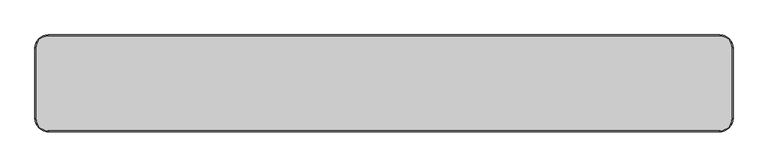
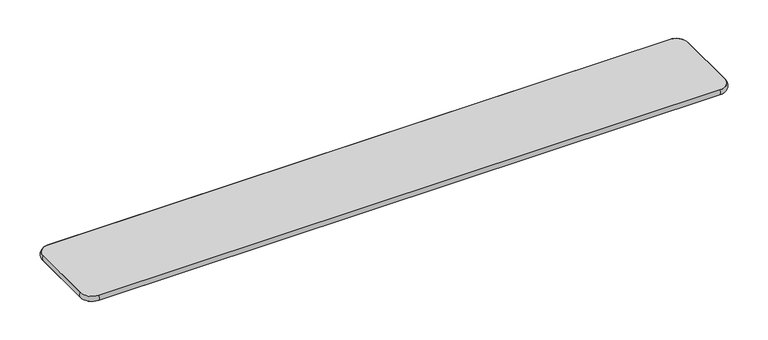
"""IFC4 building model written with IfcOpenShell, lengths in millimetres: furniture geometry, Banco para refeitório : Banco para refeitório 220x30cm cód 40473.4."""

from ifc_helpers import new_model, si_unit, point, frame, frame_2d, origin, place, context, project, spatial, polyline, circle_curve, ellipse_curve, trimmed, segment, composite_curve, outline, extrude, source, transform, mapped, element, save
from ifc_brep_helpers import plane_surface, cylinder_surface, revolved_surface, advanced_brep


def furniture_68d484b3(model_context):
    return source(origin(), model_context, "Body", "SolidModel", [
        advanced_brep(
        [(1100.0, -110.0, 380.0), (1060.0, -150.0, 380.0), (1060.0, -150.0, 362.0), (1100.0, -110.0, 362.0), (1100.0, 110.0, 362.0), (1100.0, 110.0, 380.0), (1060.0, 150.0, 380.0), (1060.0, 150.0, 362.0), (-1060.0, 150.0, 362.0), (-1060.0, 150.0, 380.0), (-1100.0, 110.0, 380.0), (-1100.0, 110.0, 362.0), (-1100.0, -110.0, 362.0), (-1100.0, -110.0, 380.0), (-1060.0, -150.0, 380.0), (-1060.0, -150.0, 362.0)],
        [
            (0, 1, circle_curve(frame((1060.0, -110.0, 380.0), z_axis=(0.0, 0.0, -1.0), x_axis=(0.0, -1.0, 0.0)), 40.0)),
            (1, 2, circle_curve(frame((1060.0, -136.6032084, 371.0), z_axis=(1.0, 0.0, 0.0), x_axis=(0.0, 1.0, 0.0)), 16.1392077)),
            (2, 3, circle_curve(frame((1060.0, -110.0, 362.0), z_axis=(0.0, 0.0, 1.0), x_axis=(0.0, -1.0, 0.0)), 40.0)),
            (3, 0, circle_curve(frame((1086.6032084, -110.0, 371.0), z_axis=(0.0, -1.0, 0.0), x_axis=(-1.0, 0.0, 0.0)), 16.1392077)),
            (2, 1),
            (0, 3),
            (3, 4),
            (4, 5, circle_curve(frame((1086.6032084, 110.0, 371.0), z_axis=(0.0, -1.0, 0.0), x_axis=(-1.0, 0.0, 0.0)), 16.1392077)),
            (5, 0),
            (5, 4),
            (6, 5, circle_curve(frame((1060.0, 110.0, 380.0), z_axis=(0.0, 0.0, -1.0), x_axis=(1.0, 0.0, 0.0)), 40.0)),
            (4, 7, circle_curve(frame((1060.0, 110.0, 362.0), z_axis=(0.0, 0.0, 1.0), x_axis=(1.0, 0.0, 0.0)), 40.0)),
            (7, 6, circle_curve(frame((1060.0, 136.6032084, 371.0), z_axis=(1.0, 0.0, 0.0), x_axis=(0.0, -1.0, 0.0)), 16.1392077)),
            (6, 7),
            (7, 8),
            (8, 9, circle_curve(frame((-1060.0, 136.6032084, 371.0), z_axis=(1.0, 0.0, 0.0), x_axis=(0.0, -1.0, 0.0)), 16.1392077)),
            (9, 6),
            (9, 8),
            (10, 9, circle_curve(frame((-1060.0, 110.0, 380.0), z_axis=(0.0, 0.0, -1.0), x_axis=(0.0, 1.0, 0.0)), 40.0)),
            (8, 11, circle_curve(frame((-1060.0, 110.0, 362.0), z_axis=(0.0, 0.0, 1.0), x_axis=(0.0, 1.0, 0.0)), 40.0)),
            (11, 10, circle_curve(frame((-1086.6032084, 110.0, 371.0), z_axis=(0.0, 1.0, 0.0), x_axis=(1.0, 0.0, 0.0)), 16.1392077)),
            (10, 11),
            (11, 12),
            (12, 13, circle_curve(frame((-1086.6032084, -110.0, 371.0), z_axis=(0.0, 1.0, 0.0), x_axis=(1.0, 0.0, 0.0)), 16.1392077)),
            (13, 10),
            (13, 12),
            (14, 13, circle_curve(frame((-1060.0, -110.0, 380.0), z_axis=(0.0, 0.0, -1.0), x_axis=(-1.0, 0.0, 0.0)), 40.0)),
            (12, 15, circle_curve(frame((-1060.0, -110.0, 362.0), z_axis=(0.0, 0.0, 1.0), x_axis=(-1.0, 0.0, 0.0)), 40.0)),
            (15, 14, circle_curve(frame((-1060.0, -136.6032084, 371.0), z_axis=(-1.0, 0.0, 0.0), x_axis=(0.0, 1.0, 0.0)), 16.1392077)),
            (14, 15),
            (15, 2),
            (1, 14),
        ],
        [
            revolved_surface(trimmed(ellipse_curve(frame((1060.0, -136.6032084, 371.0), z_axis=(-1.0, 0.0, 0.0), x_axis=(0.0, 1.0, 0.0)), 16.1392077, 16.1392077), [point((1060.0, -150.0, 362.0))], [point((1060.0, -150.0, 380.0))], True, "CARTESIAN"), (1060.0, -110.0, 380.0), (0.0, 0.0, 1.0)),
            revolved_surface(polyline([(1060.0, -150.0, 380.0), (1060.0, -150.0, 362.0)]), (1060.0, -110.0, 380.0), (0.0, 0.0, 1.0)),
            cylinder_surface(frame((1086.6032084, -110.0, 371.0), z_axis=(0.0, -1.0, 0.0), x_axis=(-1.0, 0.0, 0.0)), 16.1392077),
            plane_surface(frame((1100.0, -110.0, 380.0), z_axis=(-1.0, 0.0, 0.0), x_axis=(0.0, 1.0, 0.0))),
            revolved_surface(trimmed(ellipse_curve(frame((1086.6032084, 110.0, 371.0), z_axis=(0.0, -1.0, 0.0), x_axis=(-1.0, 0.0, 0.0)), 16.1392077, 16.1392077), [point((1100.0, 110.0, 362.0))], [point((1100.0, 110.0, 380.0))], True, "CARTESIAN"), (1060.0, 110.0, 380.0), (0.0, 0.0, 1.0)),
            revolved_surface(polyline([(1100.0, 110.0, 380.0), (1100.0, 110.0, 362.0)]), (1060.0, 110.0, 380.0), (0.0, 0.0, 1.0)),
            cylinder_surface(frame((1060.0, 136.6032084, 371.0), z_axis=(1.0, 0.0, 0.0), x_axis=(0.0, -1.0, 0.0)), 16.1392077),
            plane_surface(frame((1060.0, 150.0, 380.0), z_axis=(0.0, -1.0, 0.0), x_axis=(-1.0, 0.0, 0.0))),
            revolved_surface(trimmed(ellipse_curve(frame((-1060.0, 136.6032084, 371.0), z_axis=(1.0, 0.0, 0.0), x_axis=(0.0, -1.0, 0.0)), 16.1392077, 16.1392077), [point((-1060.0, 150.0, 362.0))], [point((-1060.0, 150.0, 380.0))], True, "CARTESIAN"), (-1060.0, 110.0, 380.0), (0.0, 0.0, 1.0)),
            revolved_surface(polyline([(-1060.0, 150.0, 380.0), (-1060.0, 150.0, 362.0)]), (-1060.0, 110.0, 380.0), (0.0, 0.0, 1.0)),
            cylinder_surface(frame((-1086.6032084, 110.0, 371.0), z_axis=(0.0, 1.0, 0.0), x_axis=(1.0, 0.0, 0.0)), 16.1392077),
            plane_surface(frame((-1100.0, 110.0, 380.0), z_axis=(1.0, 0.0, 0.0), x_axis=(0.0, -1.0, 0.0))),
            revolved_surface(trimmed(ellipse_curve(frame((-1086.6032084, -110.0, 371.0), z_axis=(0.0, 1.0, 0.0), x_axis=(1.0, 0.0, 0.0)), 16.1392077, 16.1392077), [point((-1100.0, -110.0, 362.0))], [point((-1100.0, -110.0, 380.0))], True, "CARTESIAN"), (-1060.0, -110.0, 380.0), (0.0, 0.0, 1.0)),
            revolved_surface(polyline([(-1100.0, -110.0, 380.0), (-1100.0, -110.0, 362.0)]), (-1060.0, -110.0, 380.0), (0.0, 0.0, 1.0)),
            cylinder_surface(frame((-1060.0, -136.6032084, 371.0), z_axis=(-1.0, 0.0, 0.0), x_axis=(0.0, 1.0, 0.0)), 16.1392077),
            plane_surface(frame((-1060.0, -150.0, 380.0), z_axis=(0.0, 1.0, 0.0), x_axis=(1.0, 0.0, 0.0))),
        ],
        [
            (0, [[1, 2, 3, 4]]),
            (1, [[-3, 5, -1, 6]]),
            (2, [[-4, 7, 8, 9]]),
            (3, [[-6, -9, 10, -7]]),
            (4, [[11, -8, 12, 13]]),
            (5, [[-12, -10, -11, 14]]),
            (6, [[-13, 15, 16, 17]]),
            (7, [[-14, -17, 18, -15]]),
            (8, [[19, -16, 20, 21]]),
            (9, [[-20, -18, -19, 22]]),
            (10, [[-21, 23, 24, 25]]),
            (11, [[-22, -25, 26, -23]]),
            (12, [[27, -24, 28, 29]]),
            (13, [[-28, -26, -27, 30]]),
            (14, [[-29, 31, -2, 32]]),
            (15, [[-30, -32, -5, -31]]),
        ],
    ),
        extrude(outline(composite_curve([segment(trimmed(circle_curve(frame_2d((1060.0, 110.0)), 40.0), [point((1060.0, 150.0))], [point((1100.0, 110.0))], False, "CARTESIAN"), True, "CONTINUOUS"), segment(polyline([(1100.0, 110.0), (1100.0, -110.0)]), True, "CONTINUOUS"), segment(trimmed(circle_curve(frame_2d((1060.0, -110.0)), 40.0), [point((1100.0, -110.0))], [point((1060.0, -150.0))], False, "CARTESIAN"), True, "CONTINUOUS"), segment(polyline([(1060.0, -150.0), (-1060.0, -150.0)]), True, "CONTINUOUS"), segment(trimmed(circle_curve(frame_2d((-1060.0, -110.0)), 40.0), [point((-1060.0, -150.0))], [point((-1100.0, -110.0))], False, "CARTESIAN"), True, "CONTINUOUS"), segment(polyline([(-1100.0, -110.0), (-1100.0, 110.0)]), True, "CONTINUOUS"), segment(trimmed(circle_curve(frame_2d((-1060.0, 110.0)), 40.0), [point((-1100.0, 110.0))], [point((-1060.0, 150.0))], False, "CARTESIAN"), True, "CONTINUOUS"), segment(polyline([(-1060.0, 150.0), (1060.0, 150.0)]), True, "CONTINUOUS")], self_intersect=False)), frame((0.0, 0.0, 362.0), z_axis=(0.0, 0.0, 1.0), x_axis=(1.0, 0.0, 0.0)), (0.0, 0.0, 1.0), 18.0),
    ])


if __name__ == "__main__":
    model = new_model("IFC4")
    model_context = context("Model", 3, world=origin())
    ifc_project = project(units=[si_unit("LENGTHUNIT", "METRE", prefix="MILLI")], contexts=[model_context])
    site = spatial("IfcSite", under=ifc_project)
    building = spatial("IfcBuilding", under=site)
    placement = place(None, origin())
    furniture_shape = furniture_68d484b3(model_context)
    element("IfcFurniture", 1, ObjectType="Banco para refeitório : Banco para refeitório 220x30cm cód 40473.4", at=placement, inside=building, context=model_context, shape_type="MappedRepresentation", body=[
        mapped(furniture_shape, transform((0.0, 0.0, 0.0), x_axis=(1.0, 0.0, 0.0), y_axis=(0.0, 1.0, 0.0), z_axis=(0.0, 0.0, 1.0))),
    ])
    save(model, "model.ifc")
